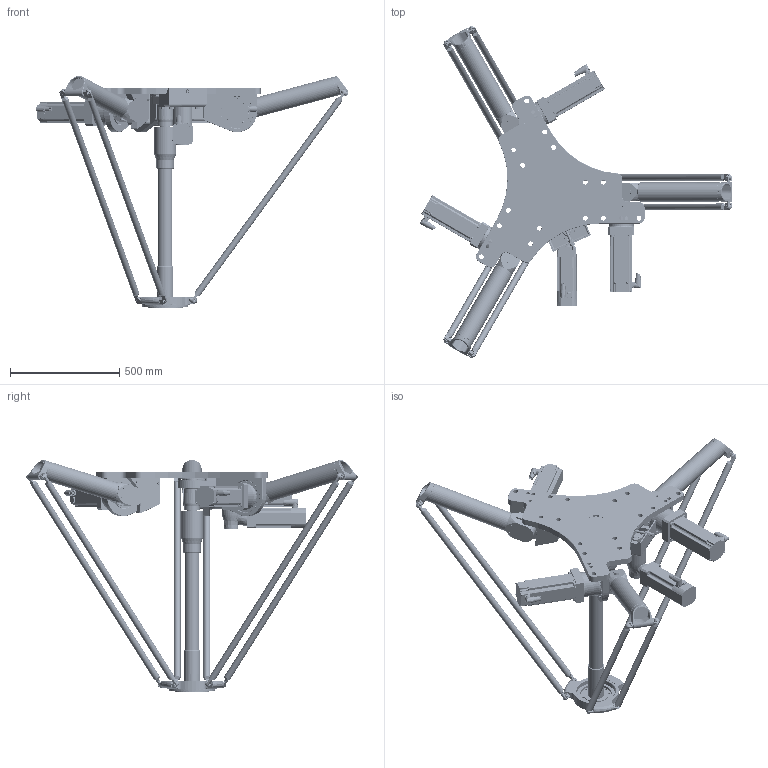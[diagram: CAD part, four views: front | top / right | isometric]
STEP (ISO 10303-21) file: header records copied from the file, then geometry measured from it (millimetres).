
FILE_DESCRIPTION (( 'STEP AP214' ), '1' );
FILE_NAME ('DR4140C-AX012_3D.STEP', '2020-04-06T13:48:07', ( '' ), ( '' ), 'SwSTEP 2.0', 'SolidWorks 2017', '' );
FILE_SCHEMA (( 'AUTOMOTIVE_DESIGN' ));
Length unit declared in the file: millimetre
Products named in the file (4): 8LSA37_DB060S200_3_8; DR4140C-AX012_3D_ohne_Motor; DR4140C-AX012_3D; 8LSA46_DB030S200_3_9
Assembly tree (5 placements, depth 2):
  DR4140C-AX012_3D
    DR4140C-AX012_3D_ohne_Motor
    8LSA46_DB030S200_3_9  x3
    8LSA37_DB060S200_3_8
Bounding box: 1432.81 x 1520.13 x 1061.87 mm (x, y, z)
Volume: 48312330.4 mm3; surface area: 4281012.3 mm2
Topology: 29 solids, 83 shells, 5537 faces, 13141 edges, 8408 vertices
Faces by surface type: plane 2990, cylinder 1520, cone 607, bspline 415, torus 5
Full cylindrical faces by diameter (mm): 1 x16, 3 x3, 3.3 x1, 4 x1, 4.134 x12, 4.2 x3, 4.3 x1, 4.5 x4, 4.917 x12, 5 x96, 5.3 x3, 5.5 x4, 7 x16, 7.318 x4, 7.5 x16, 8 x36, 8.2 x36, 8.376 x6, 8.5 x132, 9 x12, 9.6 x3, 10 x11, 12 x25, 13 x36, 13.835 x9, 14 x1, 15 x13, 16 x13, 17.294 x6, 18 x48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
Entity records: 169916 total; most frequent: CARTESIAN_POINT 43896, DIRECTION 17511, ORIENTED_EDGE 16100, EDGE_CURVE 8050, AXIS2_PLACEMENT_3D 6642, EDGE_LOOP 5876, VERTEX_POINT 5664, FACE_OUTER_BOUND 4967
